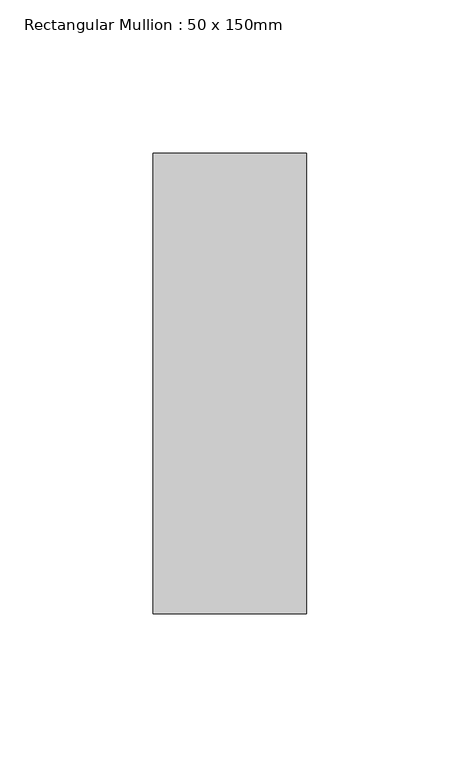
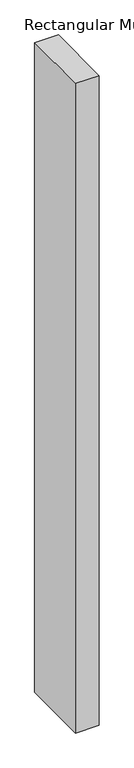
"""IFC4 building model written with IfcOpenShell, lengths in millimetres: member geometry, Rectangular Mullion : 50 x 150mm."""

from ifc_helpers import new_model, si_unit, frame, origin, place, context, project, spatial, polyline, outline, extrude, source, transform, mapped, element, save


def rectangular_mullion_50_x_150mm_69968c43(model_context):
    return source(origin(), model_context, "Body", "SweptSolid", [
        extrude(outline(polyline([(25.0, 75.0), (25.0, -75.0), (-25.0, -75.0), (-25.0, 75.0), (25.0, 75.0)])), frame((0.0, 0.0, -1454.8405292), z_axis=(0.0, 0.0, 1.0), x_axis=(1.0, 0.0, 0.0)), (0.0, 0.0, 1.0), 1454.8405292),
    ])


if __name__ == "__main__":
    model = new_model("IFC4")
    model_context = context("Model", 3, world=origin())
    ifc_project = project(units=[si_unit("LENGTHUNIT", "METRE", prefix="MILLI")], contexts=[model_context])
    site = spatial("IfcSite", under=ifc_project)
    building = spatial("IfcBuilding", under=site)
    placement = place(None, origin())
    rectangular_mullion_50_x_150mm_shape = rectangular_mullion_50_x_150mm_69968c43(model_context)
    element("IfcMember", 1, ObjectType="Rectangular Mullion : 50 x 150mm", at=placement, inside=building, context=model_context, shape_type="MappedRepresentation", body=[
        mapped(rectangular_mullion_50_x_150mm_shape, transform((0.0, 0.0, 0.0), x_axis=(1.0, 0.0, 0.0), y_axis=(0.0, 1.0, 0.0), z_axis=(0.0, 0.0, 1.0))),
    ])
    save(model, "model.ifc")
